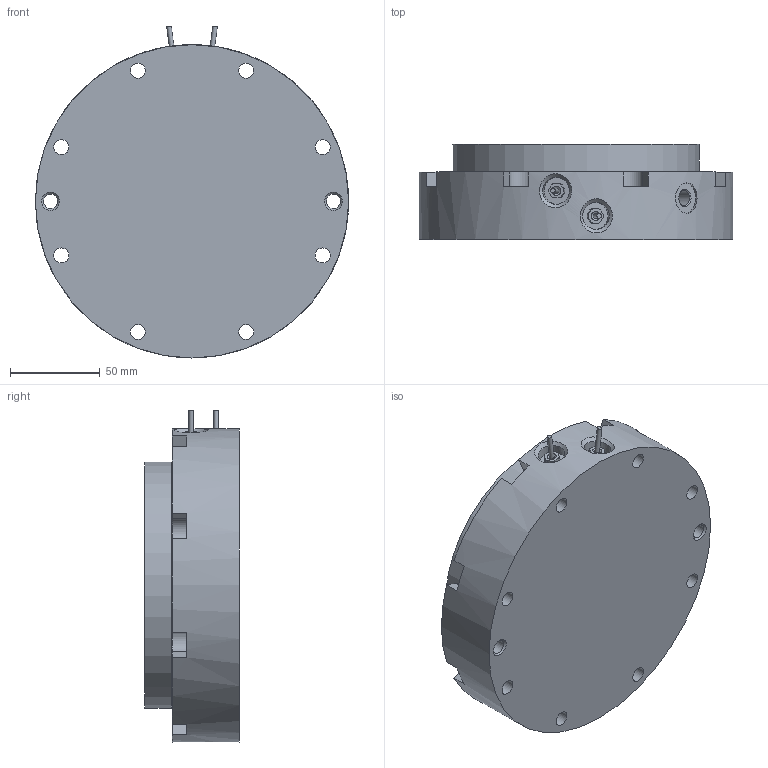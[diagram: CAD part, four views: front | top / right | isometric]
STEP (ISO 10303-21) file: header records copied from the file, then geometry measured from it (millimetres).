
FILE_DESCRIPTION( ( 'STEP AP203' ), '1' );
FILE_NAME( 'p:/temp/worker_28/temp/exporttempdir_5340_394_hbBuY/format_0/AMF552968.stp', '2020-03-20T06:55:42', ( 'License CC BY-ND 4.0' ), ( 'CADENAS' ), ' ', 'PARTsolutions', ' ' );
FILE_SCHEMA( ( 'CONFIG_CONTROL_DESIGN' ) );
Length unit declared in the file: millimetre
Products named in the file (3): AMF552968; _AMF552968_01; _AMF428755
Assembly tree (2 placements, depth 2):
  AMF552968
    _AMF552968_01
    _AMF428755
Bounding box: 175 x 53 x 185.43 mm (x, y, z)
Volume: 1068033.1 mm3; surface area: 149691.2 mm2
Topology: 2 solids, 2 shells, 272 faces, 616 edges, 408 vertices
Faces by surface type: plane 164, cylinder 86, cone 20, torus 2
Full cylindrical faces by diameter (mm): 2 x1, 2.6 x2, 4.917 x2, 5 x3, 6 x8, 6.2 x8, 7.2 x1, 8 x3, 8.4 x8, 8.566 x1, 9 x2, 10 x8, 10.2 x1, 12.5 x8, 15 x2, 17 x1, 32 x1, 102 x2, 138 x1, 175 x1
Entity records: 7544 total; most frequent: CARTESIAN_POINT 1555, DIRECTION 1252, ORIENTED_EDGE 1020, EDGE_CURVE 510, AXIS2_PLACEMENT_3D 477, EDGE_LOOP 438, VERTEX_POINT 390, FACE_OUTER_BOUND 338
